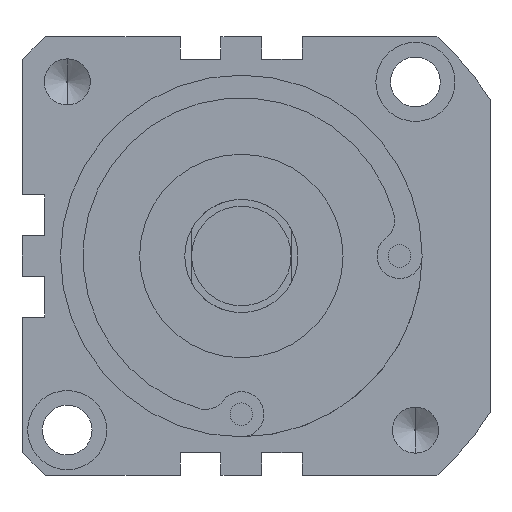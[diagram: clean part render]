
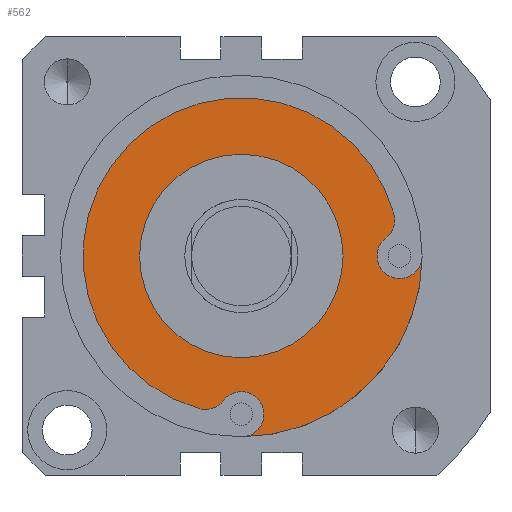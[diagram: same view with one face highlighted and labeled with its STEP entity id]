
A CAD part, front view. The second image highlights one B-rep face of the part: STEP entity #562.
In plain terms, the highlighted planar face has unit normal (0, -1, 0).
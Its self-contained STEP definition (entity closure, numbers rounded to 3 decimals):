
#3 = EDGE_CURVE ( 'NONE', #1689, #2491, #4235, .T. ) ;
#8 = DIRECTION ( 'NONE',  ( 0., 1., 0. ) ) ;
#14 = AXIS2_PLACEMENT_3D ( 'NONE', #3495, #2169, #1514 ) ;
#75 = AXIS2_PLACEMENT_3D ( 'NONE', #743, #2676, #3071 ) ;
#141 = ORIENTED_EDGE ( 'NONE', *, *, #1465, .T. ) ;
#221 = EDGE_LOOP ( 'NONE', ( #141, #4019 ) ) ;
#234 = CARTESIAN_POINT ( 'NONE',  ( 0., -61.5, 0. ) ) ;
#351 = CARTESIAN_POINT ( 'NONE',  ( 0., -61.5, -40. ) ) ;
#360 = EDGE_CURVE ( 'NONE', #376, #2486, #1396, .T. ) ;
#376 = VERTEX_POINT ( 'NONE', #3231 ) ;
#391 = CIRCLE ( 'NONE', #3519, 5. ) ;
#413 = AXIS2_PLACEMENT_3D ( 'NONE', #4263, #1940, #3955 ) ;
#415 = CARTESIAN_POINT ( 'NONE',  ( 0., -61.5, 0. ) ) ;
#432 = DIRECTION ( 'NONE',  ( 0., 1., 0. ) ) ;
#554 = CARTESIAN_POINT ( 'NONE',  ( -9.27, -61.5, -33.75 ) ) ;
#562 = ADVANCED_FACE ( 'NONE', ( #3558, #3088 ), #2051, .T. ) ;
#567 = EDGE_CURVE ( 'NONE', #1526, #2907, #391, .T. ) ;
#569 = DIRECTION ( 'NONE',  ( 0., 0., 1. ) ) ;
#571 = CARTESIAN_POINT ( 'NONE',  ( 0., -61.5, 22.5 ) ) ;
#652 = CARTESIAN_POINT ( 'NONE',  ( 35., -61.5, 0. ) ) ;
#682 = VERTEX_POINT ( 'NONE', #2426 ) ;
#739 = CARTESIAN_POINT ( 'NONE',  ( 28.929, -61.5, 7.946 ) ) ;
#743 = CARTESIAN_POINT ( 'NONE',  ( 0., -61.5, 0. ) ) ;
#759 = ORIENTED_EDGE ( 'NONE', *, *, #3, .T. ) ;
#772 = VERTEX_POINT ( 'NONE', #571 ) ;
#780 = CARTESIAN_POINT ( 'NONE',  ( -3.973, -61.5, -31.964 ) ) ;
#853 = CIRCLE ( 'NONE', #3761, 5. ) ;
#984 = CARTESIAN_POINT ( 'NONE',  ( -7.946, -61.5, -33.929 ) ) ;
#1113 = ORIENTED_EDGE ( 'NONE', *, *, #1842, .T. ) ;
#1178 = EDGE_LOOP ( 'NONE', ( #3001, #1113, #4047, #3067, #759, #3268, #3726, #1926 ) ) ;
#1235 = CARTESIAN_POINT ( 'NONE',  ( 0., -61.5, 0. ) ) ;
#1290 = CIRCLE ( 'NONE', #2678, 40. ) ;
#1295 = CARTESIAN_POINT ( 'NONE',  ( 0., -61.5, 0. ) ) ;
#1396 = CIRCLE ( 'NONE', #413, 5. ) ;
#1430 = CIRCLE ( 'NONE', #75, 22.5 ) ;
#1465 = EDGE_CURVE ( 'NONE', #682, #772, #1430, .T. ) ;
#1483 = CARTESIAN_POINT ( 'NONE',  ( 0., -61.5, -35. ) ) ;
#1510 = VERTEX_POINT ( 'NONE', #780 ) ;
#1514 = DIRECTION ( 'NONE',  ( 0., 0., -1. ) ) ;
#1526 = VERTEX_POINT ( 'NONE', #3095 ) ;
#1574 = DIRECTION ( 'NONE',  ( 0., 1., 0. ) ) ;
#1689 = VERTEX_POINT ( 'NONE', #554 ) ;
#1714 = DIRECTION ( 'NONE',  ( 0., -1., 0. ) ) ;
#1842 = EDGE_CURVE ( 'NONE', #2486, #1526, #853, .T. ) ;
#1926 = ORIENTED_EDGE ( 'NONE', *, *, #2373, .F. ) ;
#1940 = DIRECTION ( 'NONE',  ( 0., 1., 0. ) ) ;
#2003 = DIRECTION ( 'NONE',  ( 0., 0., 1. ) ) ;
#2051 = PLANE ( 'NONE',  #3302 ) ;
#2063 = DIRECTION ( 'NONE',  ( 0., -1., 0. ) ) ;
#2069 = EDGE_CURVE ( 'NONE', #1510, #3169, #2733, .T. ) ;
#2079 = AXIS2_PLACEMENT_3D ( 'NONE', #3708, #1714, #3351 ) ;
#2089 = DIRECTION ( 'NONE',  ( 0., 0., 1. ) ) ;
#2169 = DIRECTION ( 'NONE',  ( 0., -1., 0. ) ) ;
#2257 = DIRECTION ( 'NONE',  ( 0., 0., 1. ) ) ;
#2373 = EDGE_CURVE ( 'NONE', #376, #3169, #1290, .T. ) ;
#2420 = DIRECTION ( 'NONE',  ( 0., 0., 1. ) ) ;
#2426 = CARTESIAN_POINT ( 'NONE',  ( 0., -61.5, -22.5 ) ) ;
#2486 = VERTEX_POINT ( 'NONE', #2608 ) ;
#2491 = VERTEX_POINT ( 'NONE', #984 ) ;
#2512 = AXIS2_PLACEMENT_3D ( 'NONE', #234, #2552, #569 ) ;
#2552 = DIRECTION ( 'NONE',  ( 0., 1., 0. ) ) ;
#2584 = EDGE_CURVE ( 'NONE', #2491, #1510, #3353, .T. ) ;
#2608 = CARTESIAN_POINT ( 'NONE',  ( 35., -61.5, -5. ) ) ;
#2676 = DIRECTION ( 'NONE',  ( 0., 1., 0. ) ) ;
#2677 = CIRCLE ( 'NONE', #2512, 22.5 ) ;
#2678 = AXIS2_PLACEMENT_3D ( 'NONE', #1235, #1574, #2257 ) ;
#2720 = DIRECTION ( 'NONE',  ( 0., -1., 0. ) ) ;
#2733 = CIRCLE ( 'NONE', #4110, 5. ) ;
#2749 = DIRECTION ( 'NONE',  ( 0., 0., -1. ) ) ;
#2907 = VERTEX_POINT ( 'NONE', #3893 ) ;
#2958 = DIRECTION ( 'NONE',  ( 0., 0., 1. ) ) ;
#2966 = EDGE_CURVE ( 'NONE', #772, #682, #2677, .T. ) ;
#3001 = ORIENTED_EDGE ( 'NONE', *, *, #360, .T. ) ;
#3067 = ORIENTED_EDGE ( 'NONE', *, *, #3557, .F. ) ;
#3071 = DIRECTION ( 'NONE',  ( 0., 0., 1. ) ) ;
#3088 = FACE_BOUND ( 'NONE', #221, .T. ) ;
#3095 = CARTESIAN_POINT ( 'NONE',  ( 31.964, -61.5, 3.973 ) ) ;
#3169 = VERTEX_POINT ( 'NONE', #351 ) ;
#3231 = CARTESIAN_POINT ( 'NONE',  ( 40., -61.5, 0. ) ) ;
#3268 = ORIENTED_EDGE ( 'NONE', *, *, #2584, .T. ) ;
#3293 = DIRECTION ( 'NONE',  ( 0., 1., 0. ) ) ;
#3302 = AXIS2_PLACEMENT_3D ( 'NONE', #415, #2063, #2089 ) ;
#3351 = DIRECTION ( 'NONE',  ( 0., 0., -1. ) ) ;
#3353 = CIRCLE ( 'NONE', #2079, 5. ) ;
#3495 = CARTESIAN_POINT ( 'NONE',  ( -7.946, -61.5, -28.929 ) ) ;
#3519 = AXIS2_PLACEMENT_3D ( 'NONE', #739, #2720, #2749 ) ;
#3557 = EDGE_CURVE ( 'NONE', #1689, #2907, #3948, .T. ) ;
#3558 = FACE_OUTER_BOUND ( 'NONE', #1178, .T. ) ;
#3708 = CARTESIAN_POINT ( 'NONE',  ( -7.946, -61.5, -28.929 ) ) ;
#3726 = ORIENTED_EDGE ( 'NONE', *, *, #2069, .T. ) ;
#3761 = AXIS2_PLACEMENT_3D ( 'NONE', #652, #8, #2003 ) ;
#3893 = CARTESIAN_POINT ( 'NONE',  ( 33.75, -61.5, 9.27 ) ) ;
#3948 = CIRCLE ( 'NONE', #3994, 35. ) ;
#3955 = DIRECTION ( 'NONE',  ( 0., 0., 1. ) ) ;
#3994 = AXIS2_PLACEMENT_3D ( 'NONE', #1295, #3293, #2958 ) ;
#4019 = ORIENTED_EDGE ( 'NONE', *, *, #2966, .T. ) ;
#4047 = ORIENTED_EDGE ( 'NONE', *, *, #567, .T. ) ;
#4110 = AXIS2_PLACEMENT_3D ( 'NONE', #1483, #432, #2420 ) ;
#4235 = CIRCLE ( 'NONE', #14, 5. ) ;
#4263 = CARTESIAN_POINT ( 'NONE',  ( 35., -61.5, 0. ) ) ;
